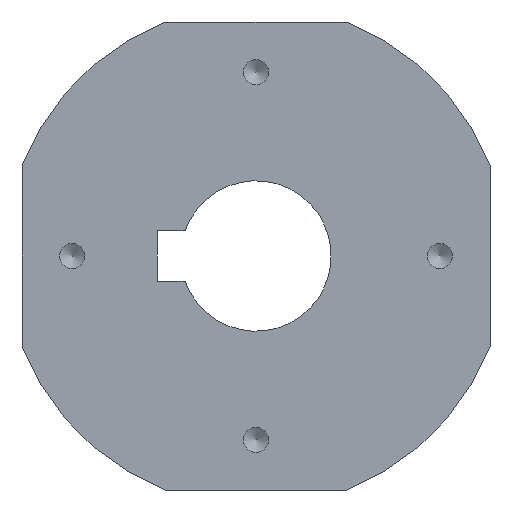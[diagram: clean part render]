
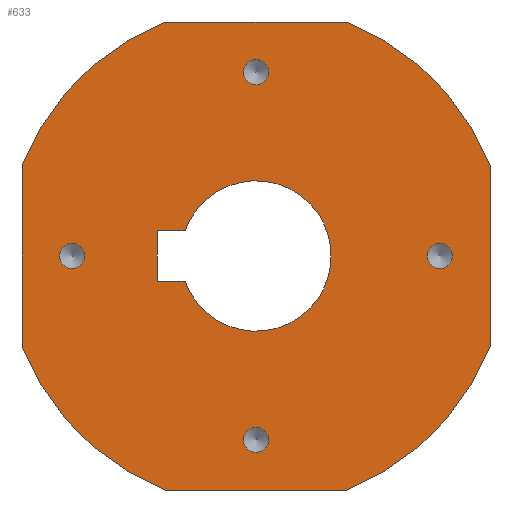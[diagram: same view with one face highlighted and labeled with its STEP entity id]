
A CAD part, left-side view. The second image highlights one B-rep face of the part: STEP entity #633.
In plain terms, the highlighted planar face has unit normal (-1, 0, 0).
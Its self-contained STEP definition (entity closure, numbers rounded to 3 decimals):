
#23=FACE_BOUND('',#136,.T.);
#24=FACE_BOUND('',#137,.T.);
#25=FACE_BOUND('',#138,.T.);
#26=FACE_BOUND('',#139,.T.);
#27=FACE_BOUND('',#140,.T.);
#42=PLANE('',#707);
#93=FACE_OUTER_BOUND('',#135,.T.);
#135=EDGE_LOOP('',(#514,#515,#516,#517,#518,#519,#520,#521));
#136=EDGE_LOOP('',(#522,#523));
#137=EDGE_LOOP('',(#524,#525));
#138=EDGE_LOOP('',(#526,#527));
#139=EDGE_LOOP('',(#528,#529));
#140=EDGE_LOOP('',(#530,#531,#532,#533));
#160=CIRCLE('',#668,1.5);
#161=CIRCLE('',#669,1.5);
#162=CIRCLE('',#671,1.5);
#163=CIRCLE('',#672,1.5);
#164=CIRCLE('',#674,1.5);
#165=CIRCLE('',#675,1.5);
#166=CIRCLE('',#677,1.5);
#167=CIRCLE('',#678,1.5);
#180=CIRCLE('',#708,30.);
#181=CIRCLE('',#709,30.);
#182=CIRCLE('',#710,30.);
#183=CIRCLE('',#711,30.);
#184=CIRCLE('',#712,9.);
#210=LINE('',#1157,#251);
#214=LINE('',#1166,#255);
#218=LINE('',#1175,#259);
#222=LINE('',#1184,#263);
#226=LINE('',#1197,#267);
#227=LINE('',#1199,#268);
#228=LINE('',#1201,#269);
#251=VECTOR('',#827,10.);
#255=VECTOR('',#833,10.);
#259=VECTOR('',#839,10.);
#263=VECTOR('',#845,10.);
#267=VECTOR('',#859,10.);
#268=VECTOR('',#860,10.);
#269=VECTOR('',#861,10.);
#281=VERTEX_POINT('',#929);
#282=VERTEX_POINT('',#931);
#284=VERTEX_POINT('',#936);
#285=VERTEX_POINT('',#938);
#287=VERTEX_POINT('',#943);
#288=VERTEX_POINT('',#945);
#290=VERTEX_POINT('',#950);
#291=VERTEX_POINT('',#952);
#313=VERTEX_POINT('',#1155);
#314=VERTEX_POINT('',#1156);
#317=VERTEX_POINT('',#1164);
#318=VERTEX_POINT('',#1165);
#321=VERTEX_POINT('',#1173);
#322=VERTEX_POINT('',#1174);
#325=VERTEX_POINT('',#1182);
#326=VERTEX_POINT('',#1183);
#329=VERTEX_POINT('',#1195);
#330=VERTEX_POINT('',#1196);
#331=VERTEX_POINT('',#1198);
#332=VERTEX_POINT('',#1200);
#346=EDGE_CURVE('',#282,#281,#160,.T.);
#347=EDGE_CURVE('',#281,#282,#161,.T.);
#349=EDGE_CURVE('',#285,#284,#162,.T.);
#350=EDGE_CURVE('',#284,#285,#163,.T.);
#352=EDGE_CURVE('',#288,#287,#164,.T.);
#353=EDGE_CURVE('',#287,#288,#165,.T.);
#355=EDGE_CURVE('',#291,#290,#166,.T.);
#356=EDGE_CURVE('',#290,#291,#167,.T.);
#386=EDGE_CURVE('',#313,#314,#210,.T.);
#390=EDGE_CURVE('',#317,#318,#214,.T.);
#394=EDGE_CURVE('',#321,#322,#218,.T.);
#398=EDGE_CURVE('',#325,#326,#222,.T.);
#402=EDGE_CURVE('',#321,#318,#180,.T.);
#403=EDGE_CURVE('',#325,#322,#181,.T.);
#404=EDGE_CURVE('',#313,#326,#182,.T.);
#405=EDGE_CURVE('',#317,#314,#183,.T.);
#406=EDGE_CURVE('',#329,#330,#226,.T.);
#407=EDGE_CURVE('',#330,#331,#227,.T.);
#408=EDGE_CURVE('',#331,#332,#228,.T.);
#409=EDGE_CURVE('',#332,#329,#184,.T.);
#514=ORIENTED_EDGE('',*,*,#390,.T.);
#515=ORIENTED_EDGE('',*,*,#402,.F.);
#516=ORIENTED_EDGE('',*,*,#394,.T.);
#517=ORIENTED_EDGE('',*,*,#403,.F.);
#518=ORIENTED_EDGE('',*,*,#398,.T.);
#519=ORIENTED_EDGE('',*,*,#404,.F.);
#520=ORIENTED_EDGE('',*,*,#386,.T.);
#521=ORIENTED_EDGE('',*,*,#405,.F.);
#522=ORIENTED_EDGE('',*,*,#346,.T.);
#523=ORIENTED_EDGE('',*,*,#347,.T.);
#524=ORIENTED_EDGE('',*,*,#349,.T.);
#525=ORIENTED_EDGE('',*,*,#350,.T.);
#526=ORIENTED_EDGE('',*,*,#352,.T.);
#527=ORIENTED_EDGE('',*,*,#353,.T.);
#528=ORIENTED_EDGE('',*,*,#355,.T.);
#529=ORIENTED_EDGE('',*,*,#356,.T.);
#530=ORIENTED_EDGE('',*,*,#406,.T.);
#531=ORIENTED_EDGE('',*,*,#407,.T.);
#532=ORIENTED_EDGE('',*,*,#408,.T.);
#533=ORIENTED_EDGE('',*,*,#409,.T.);
#633=ADVANCED_FACE('',(#93,#23,#24,#25,#26,#27),#42,.T.);
#668=AXIS2_PLACEMENT_3D('',#932,#744,#745);
#669=AXIS2_PLACEMENT_3D('',#933,#746,#747);
#671=AXIS2_PLACEMENT_3D('',#939,#751,#752);
#672=AXIS2_PLACEMENT_3D('',#940,#753,#754);
#674=AXIS2_PLACEMENT_3D('',#946,#758,#759);
#675=AXIS2_PLACEMENT_3D('',#947,#760,#761);
#677=AXIS2_PLACEMENT_3D('',#953,#765,#766);
#678=AXIS2_PLACEMENT_3D('',#954,#767,#768);
#707=AXIS2_PLACEMENT_3D('',#1190,#849,#850);
#708=AXIS2_PLACEMENT_3D('',#1191,#851,#852);
#709=AXIS2_PLACEMENT_3D('',#1192,#853,#854);
#710=AXIS2_PLACEMENT_3D('',#1193,#855,#856);
#711=AXIS2_PLACEMENT_3D('',#1194,#857,#858);
#712=AXIS2_PLACEMENT_3D('',#1202,#862,#863);
#744=DIRECTION('center_axis',(1.,0.,0.));
#745=DIRECTION('ref_axis',(0.,0.,-1.));
#746=DIRECTION('center_axis',(1.,0.,0.));
#747=DIRECTION('ref_axis',(0.,0.,-1.));
#751=DIRECTION('center_axis',(1.,0.,0.));
#752=DIRECTION('ref_axis',(0.,-1.,0.));
#753=DIRECTION('center_axis',(1.,0.,0.));
#754=DIRECTION('ref_axis',(0.,-1.,0.));
#758=DIRECTION('center_axis',(1.,0.,0.));
#759=DIRECTION('ref_axis',(0.,0.,1.));
#760=DIRECTION('center_axis',(1.,0.,0.));
#761=DIRECTION('ref_axis',(0.,0.,1.));
#765=DIRECTION('center_axis',(1.,0.,0.));
#766=DIRECTION('ref_axis',(0.,1.,0.));
#767=DIRECTION('center_axis',(1.,0.,0.));
#768=DIRECTION('ref_axis',(0.,1.,0.));
#827=DIRECTION('',(0.,0.,-1.));
#833=DIRECTION('',(0.,-1.,0.));
#839=DIRECTION('',(0.,0.,1.));
#845=DIRECTION('',(0.,1.,0.));
#849=DIRECTION('center_axis',(-1.,0.,0.));
#850=DIRECTION('ref_axis',(0.,0.,1.));
#851=DIRECTION('center_axis',(1.,0.,0.));
#852=DIRECTION('ref_axis',(0.,0.,-1.));
#853=DIRECTION('center_axis',(1.,0.,0.));
#854=DIRECTION('ref_axis',(0.,0.,-1.));
#855=DIRECTION('center_axis',(1.,0.,0.));
#856=DIRECTION('ref_axis',(0.,0.,-1.));
#857=DIRECTION('center_axis',(1.,0.,0.));
#858=DIRECTION('ref_axis',(0.,0.,-1.));
#859=DIRECTION('',(0.,1.,0.));
#860=DIRECTION('',(0.,0.,1.));
#861=DIRECTION('',(0.,-1.,0.));
#862=DIRECTION('center_axis',(1.,0.,0.));
#863=DIRECTION('ref_axis',(0.,0.,-1.));
#929=CARTESIAN_POINT('',(0.,0.,-20.5));
#931=CARTESIAN_POINT('',(0.,0.,-23.5));
#932=CARTESIAN_POINT('Origin',(0.,0.,
-22.));
#933=CARTESIAN_POINT('Origin',(0.,0.,
-22.));
#936=CARTESIAN_POINT('',(0.,-20.5,0.));
#938=CARTESIAN_POINT('',(0.,-23.5,0.));
#939=CARTESIAN_POINT('Origin',(0.,-22.,0.));
#940=CARTESIAN_POINT('Origin',(0.,-22.,0.));
#943=CARTESIAN_POINT('',(0.,0.,20.5));
#945=CARTESIAN_POINT('',(0.,0.,23.5));
#946=CARTESIAN_POINT('Origin',(0.,0.,
22.));
#947=CARTESIAN_POINT('Origin',(0.,0.,
22.));
#950=CARTESIAN_POINT('',(0.,20.5,0.));
#952=CARTESIAN_POINT('',(0.,23.5,0.));
#953=CARTESIAN_POINT('Origin',(0.,22.,0.));
#954=CARTESIAN_POINT('Origin',(0.,22.,0.));
#1155=CARTESIAN_POINT('',(0.,28.,10.77));
#1156=CARTESIAN_POINT('',(0.,28.,-10.77));
#1157=CARTESIAN_POINT('',(0.,28.,-5.385));
#1164=CARTESIAN_POINT('',(0.,10.77,-28.));
#1165=CARTESIAN_POINT('',(0.,-10.77,-28.));
#1166=CARTESIAN_POINT('',(0.,9.615,-28.));
#1173=CARTESIAN_POINT('',(0.,-28.,-10.77));
#1174=CARTESIAN_POINT('',(0.,-28.,10.77));
#1175=CARTESIAN_POINT('',(0.,-28.,5.385));
#1182=CARTESIAN_POINT('',(0.,-10.77,28.));
#1183=CARTESIAN_POINT('',(0.,10.77,28.));
#1184=CARTESIAN_POINT('',(0.,20.385,28.));
#1190=CARTESIAN_POINT('Origin',(0.,30.,0.));
#1191=CARTESIAN_POINT('Origin',(0.,0.,
0.));
#1192=CARTESIAN_POINT('Origin',(0.,0.,
0.));
#1193=CARTESIAN_POINT('Origin',(0.,0.,
0.));
#1194=CARTESIAN_POINT('Origin',(0.,0.,
0.));
#1195=CARTESIAN_POINT('',(0.,8.485,-3.));
#1196=CARTESIAN_POINT('',(0.,11.8,-3.));
#1197=CARTESIAN_POINT('',(0.,17.75,-3.));
#1198=CARTESIAN_POINT('',(0.,11.8,3.));
#1199=CARTESIAN_POINT('',(0.,11.8,-1.5));
#1200=CARTESIAN_POINT('',(0.,8.485,3.));
#1201=CARTESIAN_POINT('',(0.,20.9,3.));
#1202=CARTESIAN_POINT('Origin',(0.,0.,
0.));
